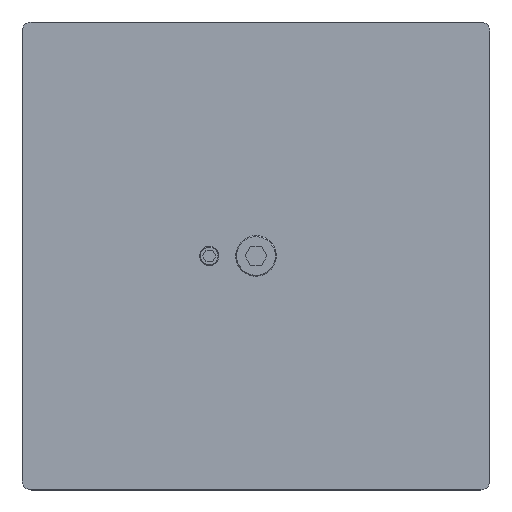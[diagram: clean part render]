
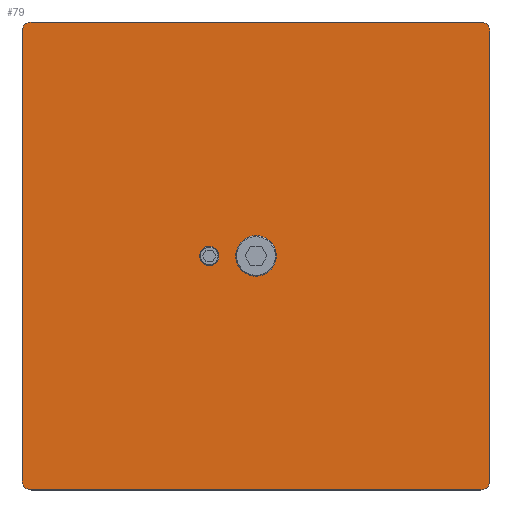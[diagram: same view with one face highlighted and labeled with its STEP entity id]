
A CAD part, top view. The second image highlights one B-rep face of the part: STEP entity #79.
In plain terms, the highlighted planar face has unit normal (0, 0, 1).
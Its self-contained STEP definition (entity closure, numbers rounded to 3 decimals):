
#79=ADVANCED_FACE('',(#171,#132,#133),#1178,.T.);
#132=FACE_BOUND('',#247,.T.);
#133=FACE_BOUND('',#248,.T.);
#171=FACE_OUTER_BOUND('',#246,.T.);
#246=EDGE_LOOP('',(#406,#407,#408,#409,#410,#411,#412,#413));
#247=EDGE_LOOP('',(#414,#415));
#248=EDGE_LOOP('',(#416,#417));
#406=ORIENTED_EDGE('',*,*,#722,.T.);
#407=ORIENTED_EDGE('',*,*,#714,.T.);
#408=ORIENTED_EDGE('',*,*,#720,.T.);
#409=ORIENTED_EDGE('',*,*,#700,.T.);
#410=ORIENTED_EDGE('',*,*,#726,.T.);
#411=ORIENTED_EDGE('',*,*,#706,.T.);
#412=ORIENTED_EDGE('',*,*,#724,.T.);
#413=ORIENTED_EDGE('',*,*,#710,.T.);
#414=ORIENTED_EDGE('',*,*,#716,.T.);
#415=ORIENTED_EDGE('',*,*,#733,.T.);
#416=ORIENTED_EDGE('',*,*,#728,.T.);
#417=ORIENTED_EDGE('',*,*,#735,.T.);
#700=EDGE_CURVE('',#1034,#1035,#934,.T.);
#706=EDGE_CURVE('',#1041,#1040,#940,.T.);
#710=EDGE_CURVE('',#1045,#1044,#944,.T.);
#714=EDGE_CURVE('',#1049,#1048,#948,.T.);
#716=EDGE_CURVE('',#1051,#1056,#848,.T.);
#720=EDGE_CURVE('',#1048,#1034,#851,.T.);
#722=EDGE_CURVE('',#1044,#1049,#853,.T.);
#724=EDGE_CURVE('',#1040,#1045,#855,.T.);
#726=EDGE_CURVE('',#1035,#1041,#857,.T.);
#728=EDGE_CURVE('',#1050,#1057,#859,.T.);
#733=EDGE_CURVE('',#1056,#1051,#862,.T.);
#735=EDGE_CURVE('',#1057,#1050,#863,.T.);
#848=(
BOUNDED_CURVE()
B_SPLINE_CURVE(2,(#1587,#1588,#1589,#1590,#1591),.UNSPECIFIED.,.F.,.F.)
B_SPLINE_CURVE_WITH_KNOTS((3,2,3),(-25.761,-19.321,
-12.881),.UNSPECIFIED.)
CURVE()
GEOMETRIC_REPRESENTATION_ITEM()
RATIONAL_B_SPLINE_CURVE((1.,0.707,1.,0.707,1.))
REPRESENTATION_ITEM('')
);
#851=(
BOUNDED_CURVE()
B_SPLINE_CURVE(2,(#1604,#1605,#1606),.UNSPECIFIED.,.F.,.F.)
B_SPLINE_CURVE_WITH_KNOTS((3,3),(-4.712,0.),.UNSPECIFIED.)
CURVE()
GEOMETRIC_REPRESENTATION_ITEM()
RATIONAL_B_SPLINE_CURVE((1.,0.707,1.))
REPRESENTATION_ITEM('')
);
#853=(
BOUNDED_CURVE()
B_SPLINE_CURVE(2,(#1610,#1611,#1612),.UNSPECIFIED.,.F.,.F.)
B_SPLINE_CURVE_WITH_KNOTS((3,3),(-4.712,0.),.UNSPECIFIED.)
CURVE()
GEOMETRIC_REPRESENTATION_ITEM()
RATIONAL_B_SPLINE_CURVE((1.,0.707,1.))
REPRESENTATION_ITEM('')
);
#855=(
BOUNDED_CURVE()
B_SPLINE_CURVE(2,(#1616,#1617,#1618),.UNSPECIFIED.,.F.,.F.)
B_SPLINE_CURVE_WITH_KNOTS((3,3),(-4.712,0.),.UNSPECIFIED.)
CURVE()
GEOMETRIC_REPRESENTATION_ITEM()
RATIONAL_B_SPLINE_CURVE((1.,0.707,1.))
REPRESENTATION_ITEM('')
);
#857=(
BOUNDED_CURVE()
B_SPLINE_CURVE(2,(#1622,#1623,#1624),.UNSPECIFIED.,.F.,.F.)
B_SPLINE_CURVE_WITH_KNOTS((3,3),(-4.712,0.),.UNSPECIFIED.)
CURVE()
GEOMETRIC_REPRESENTATION_ITEM()
RATIONAL_B_SPLINE_CURVE((1.,0.707,1.))
REPRESENTATION_ITEM('')
);
#859=(
BOUNDED_CURVE()
B_SPLINE_CURVE(2,(#1628,#1629,#1630,#1631,#1632),.UNSPECIFIED.,.F.,.F.)
B_SPLINE_CURVE_WITH_KNOTS((3,2,3),(-19.478,-14.608,
-9.739),.UNSPECIFIED.)
CURVE()
GEOMETRIC_REPRESENTATION_ITEM()
RATIONAL_B_SPLINE_CURVE((1.,0.707,1.,0.707,1.))
REPRESENTATION_ITEM('')
);
#862=(
BOUNDED_CURVE()
B_SPLINE_CURVE(2,(#1647,#1648,#1649,#1650,#1651),.UNSPECIFIED.,.F.,.F.)
B_SPLINE_CURVE_WITH_KNOTS((3,2,3),(-12.881,-6.44,
0.),.UNSPECIFIED.)
CURVE()
GEOMETRIC_REPRESENTATION_ITEM()
RATIONAL_B_SPLINE_CURVE((1.,0.707,1.,0.707,1.))
REPRESENTATION_ITEM('')
);
#863=(
BOUNDED_CURVE()
B_SPLINE_CURVE(2,(#1654,#1655,#1656,#1657,#1658),.UNSPECIFIED.,.F.,.F.)
B_SPLINE_CURVE_WITH_KNOTS((3,2,3),(-9.739,-4.869,
0.),.UNSPECIFIED.)
CURVE()
GEOMETRIC_REPRESENTATION_ITEM()
RATIONAL_B_SPLINE_CURVE((1.,0.707,1.,0.707,1.))
REPRESENTATION_ITEM('')
);
#934=B_SPLINE_CURVE_WITH_KNOTS('',1,(#1555,#1556),.UNSPECIFIED.,.F.,.F.,
(2,2),(-144.,0.),.UNSPECIFIED.);
#940=B_SPLINE_CURVE_WITH_KNOTS('',1,(#1567,#1568),.UNSPECIFIED.,.F.,.F.,
(2,2),(-144.,0.),.UNSPECIFIED.);
#944=B_SPLINE_CURVE_WITH_KNOTS('',1,(#1575,#1576),.UNSPECIFIED.,.F.,.F.,
(2,2),(-144.,0.),.UNSPECIFIED.);
#948=B_SPLINE_CURVE_WITH_KNOTS('',1,(#1583,#1584),.UNSPECIFIED.,.F.,.F.,
(2,2),(-144.,0.),.UNSPECIFIED.);
#1034=VERTEX_POINT('',#1531);
#1035=VERTEX_POINT('',#1532);
#1040=VERTEX_POINT('',#1537);
#1041=VERTEX_POINT('',#1538);
#1044=VERTEX_POINT('',#1541);
#1045=VERTEX_POINT('',#1542);
#1048=VERTEX_POINT('',#1545);
#1049=VERTEX_POINT('',#1546);
#1050=VERTEX_POINT('',#1547);
#1051=VERTEX_POINT('',#1548);
#1056=VERTEX_POINT('',#1553);
#1057=VERTEX_POINT('',#1554);
#1178=PLANE('',#1233);
#1233=AXIS2_PLACEMENT_3D('',#1521,#1289,$);
#1289=DIRECTION('',(0.,0.,1.));
#1521=CARTESIAN_POINT('',(90.,-90.,-46.));
#1531=CARTESIAN_POINT('',(-72.,-75.,-46.));
#1532=CARTESIAN_POINT('',(72.,-75.,-46.));
#1537=CARTESIAN_POINT('',(75.,72.,-46.));
#1538=CARTESIAN_POINT('',(75.,-72.,-46.));
#1541=CARTESIAN_POINT('',(-72.,75.,-46.));
#1542=CARTESIAN_POINT('',(72.,75.,-46.));
#1545=CARTESIAN_POINT('',(-75.,-72.,-46.));
#1546=CARTESIAN_POINT('',(-75.,72.,-46.));
#1547=CARTESIAN_POINT('',(-15.,-3.1,-46.));
#1548=CARTESIAN_POINT('',(0.,-4.1,-46.));
#1553=CARTESIAN_POINT('',(0.,4.1,-46.));
#1554=CARTESIAN_POINT('',(-15.,3.1,-46.));
#1555=CARTESIAN_POINT('',(-72.,-75.,-46.));
#1556=CARTESIAN_POINT('',(72.,-75.,-46.));
#1567=CARTESIAN_POINT('',(75.,-72.,-46.));
#1568=CARTESIAN_POINT('',(75.,72.,-46.));
#1575=CARTESIAN_POINT('',(72.,75.,-46.));
#1576=CARTESIAN_POINT('',(-72.,75.,-46.));
#1583=CARTESIAN_POINT('',(-75.,72.,-46.));
#1584=CARTESIAN_POINT('',(-75.,-72.,-46.));
#1587=CARTESIAN_POINT('',(0.,-4.1,-46.));
#1588=CARTESIAN_POINT('',(-4.1,-4.1,-46.));
#1589=CARTESIAN_POINT('',(-4.1,0.,-46.));
#1590=CARTESIAN_POINT('',(-4.1,4.1,-46.));
#1591=CARTESIAN_POINT('',(0.,4.1,-46.));
#1604=CARTESIAN_POINT('',(-75.,-72.,-46.));
#1605=CARTESIAN_POINT('',(-75.,-75.,-46.));
#1606=CARTESIAN_POINT('',(-72.,-75.,-46.));
#1610=CARTESIAN_POINT('',(-72.,75.,-46.));
#1611=CARTESIAN_POINT('',(-75.,75.,-46.));
#1612=CARTESIAN_POINT('',(-75.,72.,-46.));
#1616=CARTESIAN_POINT('',(75.,72.,-46.));
#1617=CARTESIAN_POINT('',(75.,75.,-46.));
#1618=CARTESIAN_POINT('',(72.,75.,-46.));
#1622=CARTESIAN_POINT('',(72.,-75.,-46.));
#1623=CARTESIAN_POINT('',(75.,-75.,-46.));
#1624=CARTESIAN_POINT('',(75.,-72.,-46.));
#1628=CARTESIAN_POINT('',(-15.,-3.1,-46.));
#1629=CARTESIAN_POINT('',(-18.1,-3.1,-46.));
#1630=CARTESIAN_POINT('',(-18.1,0.,-46.));
#1631=CARTESIAN_POINT('',(-18.1,3.1,-46.));
#1632=CARTESIAN_POINT('',(-15.,3.1,-46.));
#1647=CARTESIAN_POINT('',(0.,4.1,-46.));
#1648=CARTESIAN_POINT('',(4.1,4.1,-46.));
#1649=CARTESIAN_POINT('',(4.1,0.,-46.));
#1650=CARTESIAN_POINT('',(4.1,-4.1,-46.));
#1651=CARTESIAN_POINT('',(0.,-4.1,-46.));
#1654=CARTESIAN_POINT('',(-15.,3.1,-46.));
#1655=CARTESIAN_POINT('',(-11.9,3.1,-46.));
#1656=CARTESIAN_POINT('',(-11.9,0.,-46.));
#1657=CARTESIAN_POINT('',(-11.9,-3.1,-46.));
#1658=CARTESIAN_POINT('',(-15.,-3.1,-46.));
